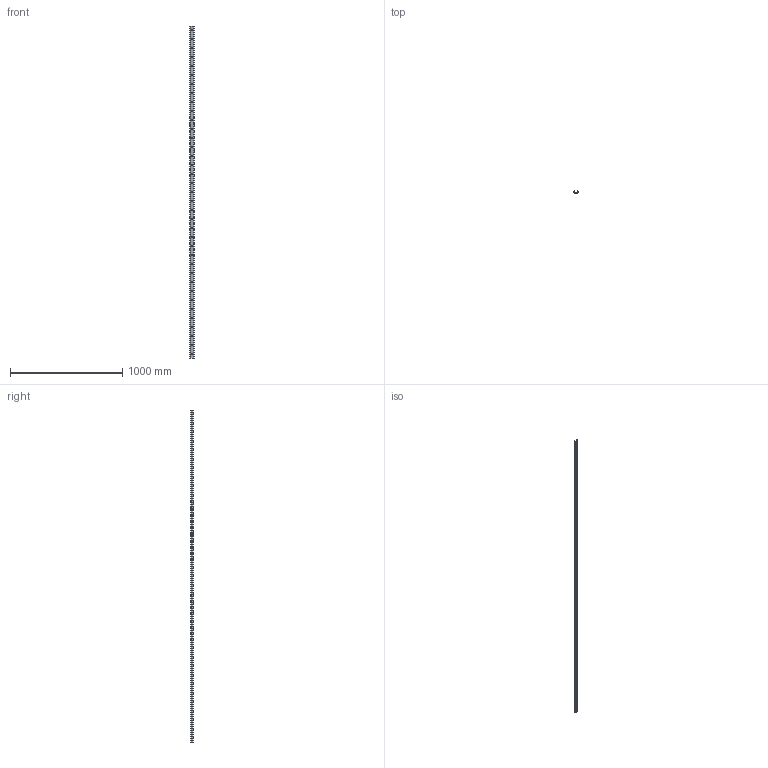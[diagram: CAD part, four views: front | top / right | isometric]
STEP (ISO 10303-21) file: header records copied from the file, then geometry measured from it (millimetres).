
FILE_DESCRIPTION(('STEP AP214'),'1');
FILE_NAME('rail_tex40-2960.stp','2019-03-08T08:33:47',('TraceParts'),('TraceParts S.A.'),'Spatial InterOp 3D',' ',' ');
FILE_SCHEMA(('automotive_design'));
Length unit declared in the file: millimetre
Products named in the file (1): rail_tex40-2960
Bounding box: 39.53 x 21 x 2960 mm (x, y, z)
Volume: 578728.3 mm3; surface area: 407609.9 mm2
Topology: 1 solids, 1 shells, 647 faces, 1677 edges, 1118 vertices
Faces by surface type: plane 455, bspline 106, cylinder 86
Entity records: 41160 total; most frequent: CARTESIAN_POINT 20493, ORIENTED_EDGE 3354, DIRECTION 2721, EDGE_CURVE 1677, LINE 1293, VECTOR 1293, VERTEX_POINT 1118, EDGE_LOOP 807
